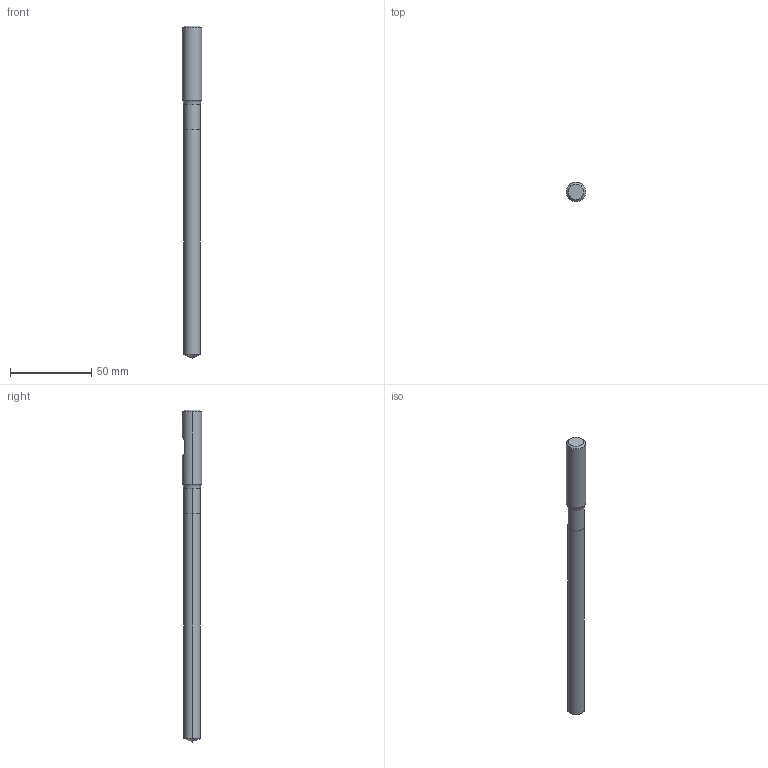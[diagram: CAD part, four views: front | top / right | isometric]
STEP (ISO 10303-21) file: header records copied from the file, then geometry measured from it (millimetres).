
FILE_DESCRIPTION (( 'STEP AP214' ), '1' );
FILE_NAME ('710.104.10_3D-model.step', '2022-02-22T17:51:37', ( '' ), ( '' ), 'SwSTEP 2.0', 'SolidWorks 2020', '' );
FILE_SCHEMA (( 'AUTOMOTIVE_DESIGN' ));
Length unit declared in the file: millimetre
Products named in the file (3): CUT-3D^Baugr149; 710.104.10_3D-model; NOCUT-3D^Baugr149
Assembly tree (2 placements, depth 2):
  710.104.10_3D-model
    CUT-3D^Baugr149
    NOCUT-3D^Baugr149
Bounding box: 12 x 12 x 204 mm (x, y, z)
Volume: 18403.2 mm3; surface area: 7180.2 mm2
Topology: 2 solids, 2 shells, 20 faces, 38 edges, 21 vertices
Faces by surface type: cone 6, cylinder 6, plane 6, torus 2
Entity records: 608 total; most frequent: DIRECTION 108, CARTESIAN_POINT 91, ORIENTED_EDGE 72, AXIS2_PLACEMENT_3D 46, EDGE_CURVE 36, EDGE_LOOP 21, VERTEX_POINT 21, FACE_OUTER_BOUND 20
